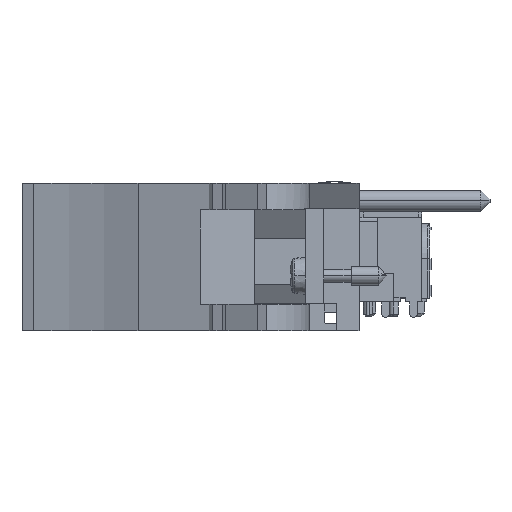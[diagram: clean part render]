
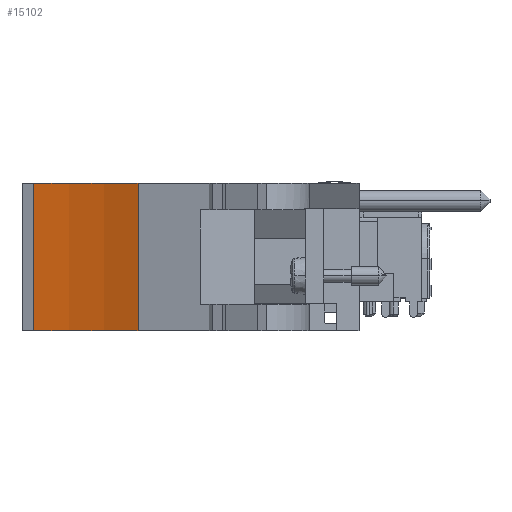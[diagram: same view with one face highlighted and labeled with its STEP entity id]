
A CAD part, front view. The second image highlights one B-rep face of the part: STEP entity #15102.
In plain terms, the highlighted cylindrical face has radius 51.46 mm (diameter 102.919 mm), a partial arc.
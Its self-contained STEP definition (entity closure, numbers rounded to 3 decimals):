
#3950=CARTESIAN_POINT('',(-50.21,-151.141,-2.362));
#3951=DIRECTION('',(0.,0.,-1.));
#3952=DIRECTION('',(0.16,0.987,0.));
#3953=AXIS2_PLACEMENT_3D('',#3950,#3951,#3952);
#4647=DIRECTION('',(0.,0.,-1.));
#4648=VECTOR('',#4647,20.015);
#4649=CARTESIAN_POINT('',(-41.998,-100.341,17.653));
#4650=LINE('',#4649,#4648);
#4651=DIRECTION('',(0.,0.,1.));
#4652=VECTOR('',#4651,20.015);
#4653=CARTESIAN_POINT('',(-27.825,-104.805,-2.362));
#4654=LINE('',#4653,#4652);
#4804=CARTESIAN_POINT('',(-50.21,-151.141,17.653));
#4805=DIRECTION('',(0.,0.,-1.));
#4806=DIRECTION('',(0.16,0.987,0.));
#4807=AXIS2_PLACEMENT_3D('',#4804,#4805,#4806);
#5739=CARTESIAN_POINT('',(-27.825,-104.805,-2.362));
#5740=VERTEX_POINT('',#5739);
#5741=CARTESIAN_POINT('',(-41.998,-100.341,-2.362));
#5742=VERTEX_POINT('',#5741);
#5857=CARTESIAN_POINT('',(-27.825,-104.805,17.653));
#5858=VERTEX_POINT('',#5857);
#5859=CARTESIAN_POINT('',(-41.998,-100.341,17.653));
#5860=VERTEX_POINT('',#5859);
#15089=CARTESIAN_POINT('',(-50.21,-151.141,-2.763));
#15090=DIRECTION('',(0.,0.,1.));
#15091=DIRECTION('',(0.,1.,0.));
#15092=AXIS2_PLACEMENT_3D('',#15089,#15090,#15091);
#15093=CYLINDRICAL_SURFACE('',#15092,51.46);
#15094=ORIENTED_EDGE('',*,*,#13593,.F.);
#15096=ORIENTED_EDGE('',*,*,#15095,.F.);
#15098=ORIENTED_EDGE('',*,*,#15097,.T.);
#15099=ORIENTED_EDGE('',*,*,#15067,.F.);
#15100=EDGE_LOOP('',(#15094,#15096,#15098,#15099));
#15101=FACE_OUTER_BOUND('',#15100,.F.);
#3954=CIRCLE('',#3953,51.46);
#4808=CIRCLE('',#4807,51.46);
#13593=EDGE_CURVE('',#5742,#5740,#3954,.T.);
#15067=EDGE_CURVE('',#5740,#5858,#4654,.T.);
#15095=EDGE_CURVE('',#5860,#5742,#4650,.T.);
#15097=EDGE_CURVE('',#5860,#5858,#4808,.T.);
#15102=ADVANCED_FACE('',(#15101),#15093,.F.);
